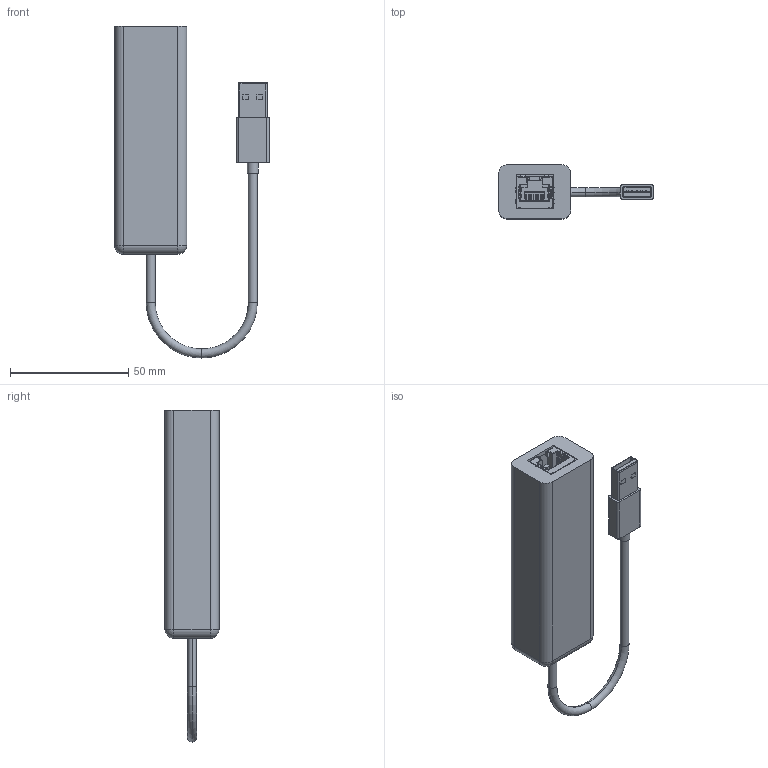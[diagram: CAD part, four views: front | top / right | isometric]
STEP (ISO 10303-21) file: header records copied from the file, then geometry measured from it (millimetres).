
FILE_DESCRIPTION (( 'STEP AP214' ), '1' );
FILE_NAME ('USB_Ethernet_Adapter-UE330.step', '2025-12-23T16:05:03', ( '' ), ( '' ), 'SwSTEP 2.0', 'SolidWorks 2026', '' );
FILE_SCHEMA (( 'AUTOMOTIVE_DESIGN' ));
Length unit declared in the file: inch
Products named in the file (5): Shell; usb3_ausb3_a-top; 0936278020; usb3_a-usb3_a-lp-smt-c; USB_Ethernet_Adapter-UE330
Assembly tree (6 placements, depth 2):
  USB_Ethernet_Adapter-UE330
    Shell
    usb3_ausb3_a-top  x3
    usb3_a-usb3_a-lp-smt-c
    0936278020
Bounding box: 65.41 x 22.86 x 140.34 mm (x, y, z)
Volume: 63373.6 mm3; surface area: 26586.6 mm2
Topology: 6 solids, 6 shells, 1933 faces, 5448 edges, 3614 vertices
Faces by surface type: plane 1356, cylinder 539, bspline 16, torus 10, cone 8, sphere 4
Entity records: 47221 total; most frequent: CARTESIAN_POINT 10976, ORIENTED_EDGE 7924, DIRECTION 6925, EDGE_CURVE 3962, LINE 2805, VECTOR 2805, VERTEX_POINT 2602, AXIS2_PLACEMENT_3D 2060
